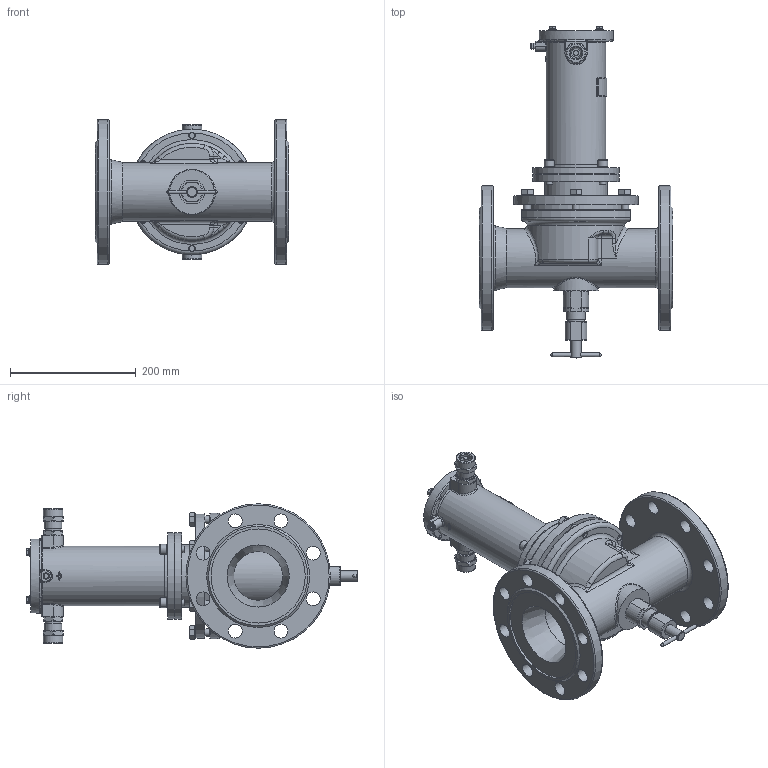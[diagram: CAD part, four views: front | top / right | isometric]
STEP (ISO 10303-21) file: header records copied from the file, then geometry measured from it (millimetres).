
FILE_DESCRIPTION(('STEP AP203'), '1');
FILE_NAME('ÑÅÍÑ DN100PN25-Â.stp', '2018-09-19T08:41:59', ('Îðëîâ Å.Â.'), ('ÎÎÎ ÍÏÏ Ñåíñîð'), 'ASCON STEP Converter 1.3', 'Kompas 3D', '');
FILE_SCHEMA(('CONFIG_CONTROL_DESIGN','SUPPORT_RESOURCE_SCHEMA'));
Length unit declared in the file: millimetre
Products named in the file (1): 34
Bounding box: 308 x 528.7 x 230 mm (x, y, z)
Volume: 3807735 mm3; surface area: 821180.5 mm2
Topology: 3 solids, 18 shells, 2128 faces, 5625 edges, 3631 vertices
Faces by surface type: cylinder 1041, plane 808, cone 150, bspline 56, torus 49, extrusion 16, sphere 8
Full cylindrical faces by diameter (mm): 3.5 x2, 4.134 x1, 4.917 x4, 5 x1, 6 x9, 6.5 x4, 8 x8, 8.2 x1, 10 x9, 10.106 x6, 11 x5, 12 x10, 13 x8, 16 x6, 17 x2, 18 x1, 18.632 x2, 20 x3, 22 x18, 22.376 x2, 23 x1, 23.5 x2, 24 x2, 24.5 x2, 26 x4, 26.376 x2, 27.8 x1, 28 x3, 28.5 x2, 30 x2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
Entity records: 84371 total; most frequent: CARTESIAN_POINT 30691, DIRECTION 11559, ORIENTED_EDGE 11188, EDGE_CURVE 5594, AXIS2_PLACEMENT_3D 4455, VERTEX_POINT 3631, VECTOR 2649, LINE 2633
